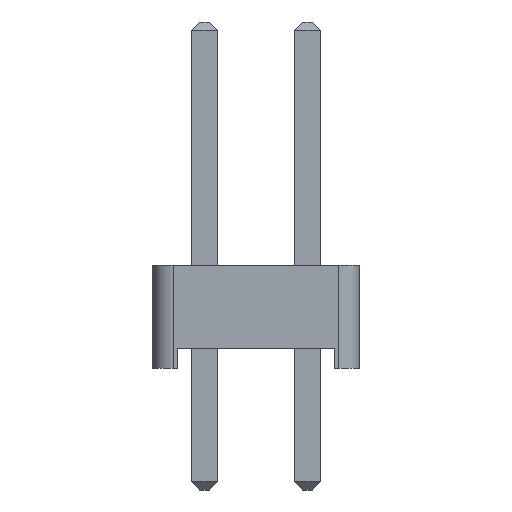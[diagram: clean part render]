
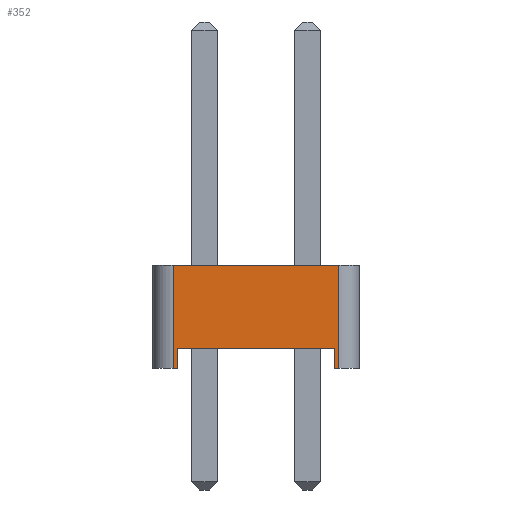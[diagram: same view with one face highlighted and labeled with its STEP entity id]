
A CAD part, left-side view. The second image highlights one B-rep face of the part: STEP entity #352.
In plain terms, the highlighted planar face has unit normal (-1, 0, 0).
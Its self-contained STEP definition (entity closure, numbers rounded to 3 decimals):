
#92 = VERTEX_POINT('',#93);
#93 = CARTESIAN_POINT('',(-1.27,2.04,0.));
#101 = PLANE('',#102);
#102 = AXIS2_PLACEMENT_3D('',#103,#104,#105);
#103 = CARTESIAN_POINT('',(0.,0.,0.));
#104 = DIRECTION('',(-0.,-0.,-1.));
#105 = DIRECTION('',(-1.,0.,0.));
#117 = CYLINDRICAL_SURFACE('',#118,0.5);
#118 = AXIS2_PLACEMENT_3D('',#119,#120,#121);
#119 = CARTESIAN_POINT('',(-0.77,2.04,0.));
#120 = DIRECTION('',(0.,0.,1.));
#121 = DIRECTION('',(0.,1.,0.));
#219 = VERTEX_POINT('',#220);
#220 = CARTESIAN_POINT('',(-1.27,1.94,0.));
#234 = PLANE('',#235);
#235 = AXIS2_PLACEMENT_3D('',#236,#237,#238);
#236 = CARTESIAN_POINT('',(1.27,1.94,0.));
#237 = DIRECTION('',(0.,-1.,0.));
#238 = DIRECTION('',(-1.,0.,0.));
#246 = EDGE_CURVE('',#219,#92,#247,.T.);
#247 = SURFACE_CURVE('',#248,(#252,#259),.PCURVE_S1.);
#248 = LINE('',#249,#250);
#249 = CARTESIAN_POINT('',(-1.27,-2.54,0.));
#250 = VECTOR('',#251,1.);
#251 = DIRECTION('',(0.,1.,0.));
#252 = PCURVE('',#101,#253);
#253 = DEFINITIONAL_REPRESENTATION('',(#254),#258);
#254 = LINE('',#255,#256);
#255 = CARTESIAN_POINT('',(1.27,-2.54));
#256 = VECTOR('',#257,1.);
#257 = DIRECTION('',(0.,1.));
#258 = ( GEOMETRIC_REPRESENTATION_CONTEXT(2) 
PARAMETRIC_REPRESENTATION_CONTEXT() REPRESENTATION_CONTEXT('2D SPACE',''
  ) );
#259 = PCURVE('',#260,#265);
#260 = PLANE('',#261);
#261 = AXIS2_PLACEMENT_3D('',#262,#263,#264);
#262 = CARTESIAN_POINT('',(-1.27,-2.54,0.));
#263 = DIRECTION('',(-1.,0.,0.));
#264 = DIRECTION('',(0.,1.,0.));
#265 = DEFINITIONAL_REPRESENTATION('',(#266),#270);
#266 = LINE('',#267,#268);
#267 = CARTESIAN_POINT('',(0.,0.));
#268 = VECTOR('',#269,1.);
#269 = DIRECTION('',(1.,0.));
#270 = ( GEOMETRIC_REPRESENTATION_CONTEXT(2) 
PARAMETRIC_REPRESENTATION_CONTEXT() REPRESENTATION_CONTEXT('2D SPACE',''
  ) );
#276 = EDGE_CURVE('',#92,#277,#279,.T.);
#277 = VERTEX_POINT('',#278);
#278 = CARTESIAN_POINT('',(-1.27,2.04,2.54));
#279 = SURFACE_CURVE('',#280,(#284,#291),.PCURVE_S1.);
#280 = LINE('',#281,#282);
#281 = CARTESIAN_POINT('',(-1.27,2.04,0.));
#282 = VECTOR('',#283,1.);
#283 = DIRECTION('',(0.,0.,1.));
#284 = PCURVE('',#117,#285);
#285 = DEFINITIONAL_REPRESENTATION('',(#286),#290);
#286 = LINE('',#287,#288);
#287 = CARTESIAN_POINT('',(1.571,0.));
#288 = VECTOR('',#289,1.);
#289 = DIRECTION('',(0.,1.));
#290 = ( GEOMETRIC_REPRESENTATION_CONTEXT(2) 
PARAMETRIC_REPRESENTATION_CONTEXT() REPRESENTATION_CONTEXT('2D SPACE',''
  ) );
#291 = PCURVE('',#260,#292);
#292 = DEFINITIONAL_REPRESENTATION('',(#293),#297);
#293 = LINE('',#294,#295);
#294 = CARTESIAN_POINT('',(4.58,0.));
#295 = VECTOR('',#296,1.);
#296 = DIRECTION('',(0.,-1.));
#297 = ( GEOMETRIC_REPRESENTATION_CONTEXT(2) 
PARAMETRIC_REPRESENTATION_CONTEXT() REPRESENTATION_CONTEXT('2D SPACE',''
  ) );
#316 = PLANE('',#317);
#317 = AXIS2_PLACEMENT_3D('',#318,#319,#320);
#318 = CARTESIAN_POINT('',(0.,0.,2.54));
#319 = DIRECTION('',(-0.,-0.,-1.));
#320 = DIRECTION('',(-1.,0.,0.));
#352 = ADVANCED_FACE('',(#353),#260,.T.);
#353 = FACE_BOUND('',#354,.T.);
#354 = EDGE_LOOP('',(#355,#385,#413,#434,#435,#436,#459,#487));
#355 = ORIENTED_EDGE('',*,*,#356,.F.);
#356 = EDGE_CURVE('',#357,#359,#361,.T.);
#357 = VERTEX_POINT('',#358);
#358 = CARTESIAN_POINT('',(-1.27,-2.04,0.));
#359 = VERTEX_POINT('',#360);
#360 = CARTESIAN_POINT('',(-1.27,-1.94,0.));
#361 = SURFACE_CURVE('',#362,(#366,#373),.PCURVE_S1.);
#362 = LINE('',#363,#364);
#363 = CARTESIAN_POINT('',(-1.27,-2.54,0.));
#364 = VECTOR('',#365,1.);
#365 = DIRECTION('',(0.,1.,0.));
#366 = PCURVE('',#260,#367);
#367 = DEFINITIONAL_REPRESENTATION('',(#368),#372);
#368 = LINE('',#369,#370);
#369 = CARTESIAN_POINT('',(0.,0.));
#370 = VECTOR('',#371,1.);
#371 = DIRECTION('',(1.,0.));
#372 = ( GEOMETRIC_REPRESENTATION_CONTEXT(2) 
PARAMETRIC_REPRESENTATION_CONTEXT() REPRESENTATION_CONTEXT('2D SPACE',''
  ) );
#373 = PCURVE('',#374,#379);
#374 = PLANE('',#375);
#375 = AXIS2_PLACEMENT_3D('',#376,#377,#378);
#376 = CARTESIAN_POINT('',(0.,0.,0.));
#377 = DIRECTION('',(-0.,-0.,-1.));
#378 = DIRECTION('',(-1.,0.,0.));
#379 = DEFINITIONAL_REPRESENTATION('',(#380),#384);
#380 = LINE('',#381,#382);
#381 = CARTESIAN_POINT('',(1.27,-2.54));
#382 = VECTOR('',#383,1.);
#383 = DIRECTION('',(0.,1.));
#384 = ( GEOMETRIC_REPRESENTATION_CONTEXT(2) 
PARAMETRIC_REPRESENTATION_CONTEXT() REPRESENTATION_CONTEXT('2D SPACE',''
  ) );
#385 = ORIENTED_EDGE('',*,*,#386,.T.);
#386 = EDGE_CURVE('',#357,#387,#389,.T.);
#387 = VERTEX_POINT('',#388);
#388 = CARTESIAN_POINT('',(-1.27,-2.04,2.54));
#389 = SURFACE_CURVE('',#390,(#394,#401),.PCURVE_S1.);
#390 = LINE('',#391,#392);
#391 = CARTESIAN_POINT('',(-1.27,-2.04,0.));
#392 = VECTOR('',#393,1.);
#393 = DIRECTION('',(0.,0.,1.));
#394 = PCURVE('',#260,#395);
#395 = DEFINITIONAL_REPRESENTATION('',(#396),#400);
#396 = LINE('',#397,#398);
#397 = CARTESIAN_POINT('',(0.5,0.));
#398 = VECTOR('',#399,1.);
#399 = DIRECTION('',(0.,-1.));
#400 = ( GEOMETRIC_REPRESENTATION_CONTEXT(2) 
PARAMETRIC_REPRESENTATION_CONTEXT() REPRESENTATION_CONTEXT('2D SPACE',''
  ) );
#401 = PCURVE('',#402,#407);
#402 = CYLINDRICAL_SURFACE('',#403,0.5);
#403 = AXIS2_PLACEMENT_3D('',#404,#405,#406);
#404 = CARTESIAN_POINT('',(-0.77,-2.04,0.));
#405 = DIRECTION('',(0.,0.,1.));
#406 = DIRECTION('',(0.,-1.,0.));
#407 = DEFINITIONAL_REPRESENTATION('',(#408),#412);
#408 = LINE('',#409,#410);
#409 = CARTESIAN_POINT('',(-1.571,0.));
#410 = VECTOR('',#411,1.);
#411 = DIRECTION('',(-0.,1.));
#412 = ( GEOMETRIC_REPRESENTATION_CONTEXT(2) 
PARAMETRIC_REPRESENTATION_CONTEXT() REPRESENTATION_CONTEXT('2D SPACE',''
  ) );
#413 = ORIENTED_EDGE('',*,*,#414,.T.);
#414 = EDGE_CURVE('',#387,#277,#415,.T.);
#415 = SURFACE_CURVE('',#416,(#420,#427),.PCURVE_S1.);
#416 = LINE('',#417,#418);
#417 = CARTESIAN_POINT('',(-1.27,-2.54,2.54));
#418 = VECTOR('',#419,1.);
#419 = DIRECTION('',(0.,1.,0.));
#420 = PCURVE('',#260,#421);
#421 = DEFINITIONAL_REPRESENTATION('',(#422),#426);
#422 = LINE('',#423,#424);
#423 = CARTESIAN_POINT('',(0.,-2.54));
#424 = VECTOR('',#425,1.);
#425 = DIRECTION('',(1.,0.));
#426 = ( GEOMETRIC_REPRESENTATION_CONTEXT(2) 
PARAMETRIC_REPRESENTATION_CONTEXT() REPRESENTATION_CONTEXT('2D SPACE',''
  ) );
#427 = PCURVE('',#316,#428);
#428 = DEFINITIONAL_REPRESENTATION('',(#429),#433);
#429 = LINE('',#430,#431);
#430 = CARTESIAN_POINT('',(1.27,-2.54));
#431 = VECTOR('',#432,1.);
#432 = DIRECTION('',(0.,1.));
#433 = ( GEOMETRIC_REPRESENTATION_CONTEXT(2) 
PARAMETRIC_REPRESENTATION_CONTEXT() REPRESENTATION_CONTEXT('2D SPACE',''
  ) );
#434 = ORIENTED_EDGE('',*,*,#276,.F.);
#435 = ORIENTED_EDGE('',*,*,#246,.F.);
#436 = ORIENTED_EDGE('',*,*,#437,.T.);
#437 = EDGE_CURVE('',#219,#438,#440,.T.);
#438 = VERTEX_POINT('',#439);
#439 = CARTESIAN_POINT('',(-1.27,1.94,0.5));
#440 = SURFACE_CURVE('',#441,(#445,#452),.PCURVE_S1.);
#441 = LINE('',#442,#443);
#442 = CARTESIAN_POINT('',(-1.27,1.94,0.));
#443 = VECTOR('',#444,1.);
#444 = DIRECTION('',(0.,0.,1.));
#445 = PCURVE('',#260,#446);
#446 = DEFINITIONAL_REPRESENTATION('',(#447),#451);
#447 = LINE('',#448,#449);
#448 = CARTESIAN_POINT('',(4.48,0.));
#449 = VECTOR('',#450,1.);
#450 = DIRECTION('',(0.,-1.));
#451 = ( GEOMETRIC_REPRESENTATION_CONTEXT(2) 
PARAMETRIC_REPRESENTATION_CONTEXT() REPRESENTATION_CONTEXT('2D SPACE',''
  ) );
#452 = PCURVE('',#234,#453);
#453 = DEFINITIONAL_REPRESENTATION('',(#454),#458);
#454 = LINE('',#455,#456);
#455 = CARTESIAN_POINT('',(2.54,0.));
#456 = VECTOR('',#457,1.);
#457 = DIRECTION('',(0.,-1.));
#458 = ( GEOMETRIC_REPRESENTATION_CONTEXT(2) 
PARAMETRIC_REPRESENTATION_CONTEXT() REPRESENTATION_CONTEXT('2D SPACE',''
  ) );
#459 = ORIENTED_EDGE('',*,*,#460,.T.);
#460 = EDGE_CURVE('',#438,#461,#463,.T.);
#461 = VERTEX_POINT('',#462);
#462 = CARTESIAN_POINT('',(-1.27,-1.94,0.5));
#463 = SURFACE_CURVE('',#464,(#468,#475),.PCURVE_S1.);
#464 = LINE('',#465,#466);
#465 = CARTESIAN_POINT('',(-1.27,1.94,0.5));
#466 = VECTOR('',#467,1.);
#467 = DIRECTION('',(0.,-1.,0.));
#468 = PCURVE('',#260,#469);
#469 = DEFINITIONAL_REPRESENTATION('',(#470),#474);
#470 = LINE('',#471,#472);
#471 = CARTESIAN_POINT('',(4.48,-0.5));
#472 = VECTOR('',#473,1.);
#473 = DIRECTION('',(-1.,0.));
#474 = ( GEOMETRIC_REPRESENTATION_CONTEXT(2) 
PARAMETRIC_REPRESENTATION_CONTEXT() REPRESENTATION_CONTEXT('2D SPACE',''
  ) );
#475 = PCURVE('',#476,#481);
#476 = PLANE('',#477);
#477 = AXIS2_PLACEMENT_3D('',#478,#479,#480);
#478 = CARTESIAN_POINT('',(0.,0.,0.5));
#479 = DIRECTION('',(0.,0.,1.));
#480 = DIRECTION('',(1.,0.,0.));
#481 = DEFINITIONAL_REPRESENTATION('',(#482),#486);
#482 = LINE('',#483,#484);
#483 = CARTESIAN_POINT('',(-1.27,1.94));
#484 = VECTOR('',#485,1.);
#485 = DIRECTION('',(0.,-1.));
#486 = ( GEOMETRIC_REPRESENTATION_CONTEXT(2) 
PARAMETRIC_REPRESENTATION_CONTEXT() REPRESENTATION_CONTEXT('2D SPACE',''
  ) );
#487 = ORIENTED_EDGE('',*,*,#488,.F.);
#488 = EDGE_CURVE('',#359,#461,#489,.T.);
#489 = SURFACE_CURVE('',#490,(#494,#501),.PCURVE_S1.);
#490 = LINE('',#491,#492);
#491 = CARTESIAN_POINT('',(-1.27,-1.94,0.));
#492 = VECTOR('',#493,1.);
#493 = DIRECTION('',(0.,0.,1.));
#494 = PCURVE('',#260,#495);
#495 = DEFINITIONAL_REPRESENTATION('',(#496),#500);
#496 = LINE('',#497,#498);
#497 = CARTESIAN_POINT('',(0.6,0.));
#498 = VECTOR('',#499,1.);
#499 = DIRECTION('',(0.,-1.));
#500 = ( GEOMETRIC_REPRESENTATION_CONTEXT(2) 
PARAMETRIC_REPRESENTATION_CONTEXT() REPRESENTATION_CONTEXT('2D SPACE',''
  ) );
#501 = PCURVE('',#502,#507);
#502 = PLANE('',#503);
#503 = AXIS2_PLACEMENT_3D('',#504,#505,#506);
#504 = CARTESIAN_POINT('',(-1.27,-1.94,0.));
#505 = DIRECTION('',(0.,1.,0.));
#506 = DIRECTION('',(1.,0.,0.));
#507 = DEFINITIONAL_REPRESENTATION('',(#508),#512);
#508 = LINE('',#509,#510);
#509 = CARTESIAN_POINT('',(0.,0.));
#510 = VECTOR('',#511,1.);
#511 = DIRECTION('',(0.,-1.));
#512 = ( GEOMETRIC_REPRESENTATION_CONTEXT(2) 
PARAMETRIC_REPRESENTATION_CONTEXT() REPRESENTATION_CONTEXT('2D SPACE',''
  ) );
